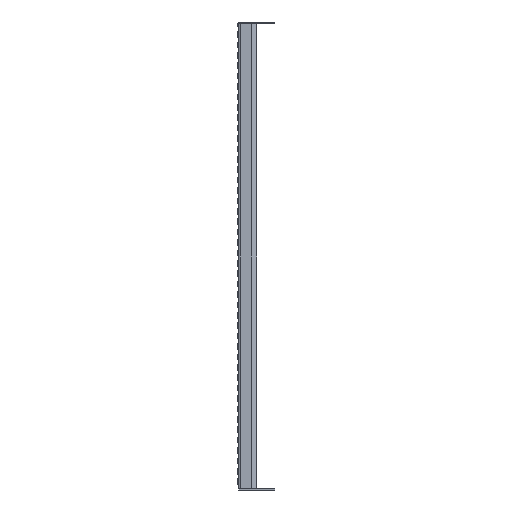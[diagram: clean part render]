
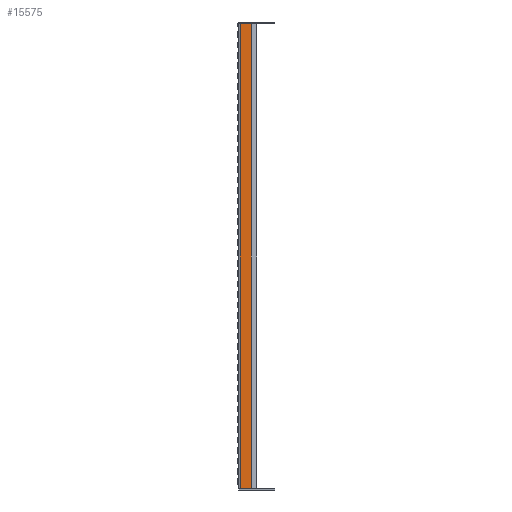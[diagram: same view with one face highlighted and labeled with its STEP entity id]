
A CAD part, left-side view. The second image highlights one B-rep face of the part: STEP entity #15575.
In plain terms, the highlighted planar face has unit normal (-1, 0, 0).
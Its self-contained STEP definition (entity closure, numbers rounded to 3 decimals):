
#2115=FACE_OUTER_BOUND('',#3293,.T.);
#3293=EDGE_LOOP('',(#12822,#12823,#12824,#12825));
#4385=LINE('',#28329,#5870);
#4396=LINE('',#28359,#5881);
#4406=LINE('',#28382,#5891);
#4413=LINE('',#28397,#5898);
#5870=VECTOR('',#20354,10.);
#5881=VECTOR('',#20379,10.);
#5891=VECTOR('',#20401,10.);
#5898=VECTOR('',#20420,10.);
#7463=VERTEX_POINT('',#28326);
#7464=VERTEX_POINT('',#28328);
#7476=VERTEX_POINT('',#28358);
#7483=VERTEX_POINT('',#28381);
#9317=EDGE_CURVE('',#7464,#7463,#4385,.T.);
#9332=EDGE_CURVE('',#7463,#7476,#4396,.T.);
#9344=EDGE_CURVE('',#7483,#7464,#4406,.T.);
#9352=EDGE_CURVE('',#7476,#7483,#4413,.T.);
#12822=ORIENTED_EDGE('',*,*,#9332,.T.);
#12823=ORIENTED_EDGE('',*,*,#9352,.T.);
#12824=ORIENTED_EDGE('',*,*,#9344,.T.);
#12825=ORIENTED_EDGE('',*,*,#9317,.T.);
#14656=PLANE('',#17056);
#15575=ADVANCED_FACE('',(#2115),#14656,.T.);
#17056=AXIS2_PLACEMENT_3D('',#28398,#20421,#20422);
#20354=DIRECTION('',(0.,1.,0.));
#20379=DIRECTION('',(0.,0.,-1.));
#20401=DIRECTION('',(0.,0.,1.));
#20420=DIRECTION('',(0.,-1.,0.));
#20421=DIRECTION('center_axis',(-1.,0.,0.));
#20422=DIRECTION('ref_axis',(0.,0.,1.));
#28326=CARTESIAN_POINT('',(0.,-3.25,894.));
#28328=CARTESIAN_POINT('',(0.,-24.427,894.));
#28329=CARTESIAN_POINT('',(0.,0.,894.));
#28358=CARTESIAN_POINT('',(0.,-3.25,0.));
#28359=CARTESIAN_POINT('',(0.,-3.25,0.));
#28381=CARTESIAN_POINT('',(0.,-24.427,0.));
#28382=CARTESIAN_POINT('',(0.,-24.427,223.5));
#28397=CARTESIAN_POINT('',(0.,0.,0.));
#28398=CARTESIAN_POINT('Origin',(0.,-25.,0.));
